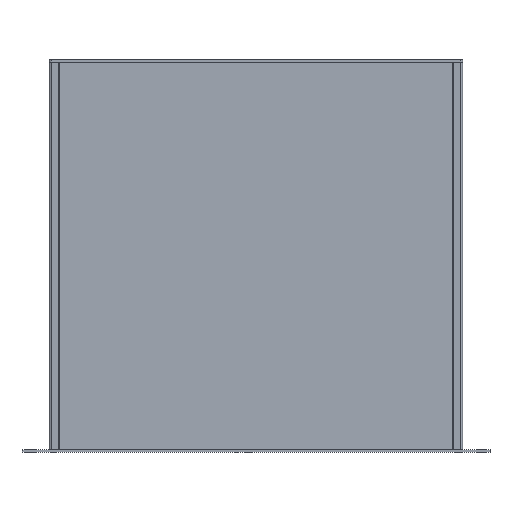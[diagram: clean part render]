
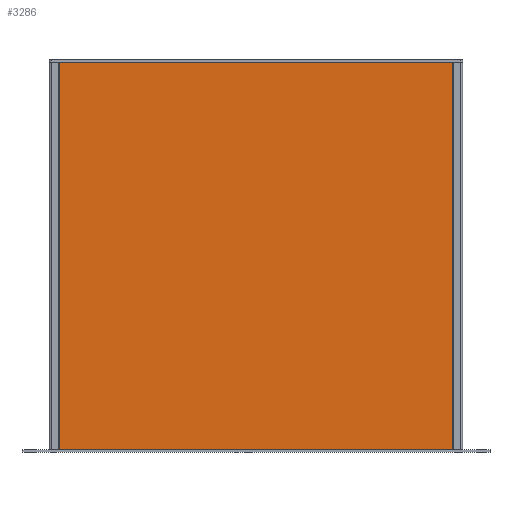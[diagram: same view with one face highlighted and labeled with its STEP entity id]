
A CAD part, top view. The second image highlights one B-rep face of the part: STEP entity #3286.
In plain terms, the highlighted planar face has unit normal (0, 0, 1).
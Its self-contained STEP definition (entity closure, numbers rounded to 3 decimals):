
#230=PLANE('',#3643);
#398=FACE_OUTER_BOUND('',#594,.T.);
#594=EDGE_LOOP('',(#3043,#3044,#3045,#3046));
#910=LINE('',#5476,#1254);
#917=LINE('',#5491,#1261);
#918=LINE('',#5493,#1262);
#919=LINE('',#5494,#1263);
#1254=VECTOR('',#4521,10.);
#1261=VECTOR('',#4534,10.);
#1262=VECTOR('',#4535,10.);
#1263=VECTOR('',#4536,10.);
#1698=VERTEX_POINT('',#5470);
#1700=VERTEX_POINT('',#5474);
#1705=VERTEX_POINT('',#5490);
#1706=VERTEX_POINT('',#5492);
#2150=EDGE_CURVE('',#1698,#1700,#910,.T.);
#2157=EDGE_CURVE('',#1705,#1698,#917,.T.);
#2158=EDGE_CURVE('',#1706,#1700,#918,.T.);
#2159=EDGE_CURVE('',#1705,#1706,#919,.T.);
#3043=ORIENTED_EDGE('',*,*,#2157,.T.);
#3044=ORIENTED_EDGE('',*,*,#2150,.T.);
#3045=ORIENTED_EDGE('',*,*,#2158,.F.);
#3046=ORIENTED_EDGE('',*,*,#2159,.F.);
#3286=ADVANCED_FACE('',(#398),#230,.T.);
#3643=AXIS2_PLACEMENT_3D('',#5489,#4532,#4533);
#4521=DIRECTION('',(0.,1.,0.));
#4532=DIRECTION('center_axis',(0.,0.,1.));
#4533=DIRECTION('ref_axis',(1.,0.,0.));
#4534=DIRECTION('',(1.,0.,0.));
#4535=DIRECTION('',(1.,0.,0.));
#4536=DIRECTION('',(0.,1.,0.));
#5470=CARTESIAN_POINT('',(444.6,0.,-19.3));
#5474=CARTESIAN_POINT('',(444.6,400.,-19.3));
#5476=CARTESIAN_POINT('',(444.6,0.,-19.3));
#5489=CARTESIAN_POINT('Origin',(38.4,0.,-19.3));
#5490=CARTESIAN_POINT('',(38.4,0.,-19.3));
#5491=CARTESIAN_POINT('',(38.4,0.,-19.3));
#5492=CARTESIAN_POINT('',(38.4,400.,-19.3));
#5493=CARTESIAN_POINT('',(38.4,400.,-19.3));
#5494=CARTESIAN_POINT('',(38.4,0.,-19.3));
